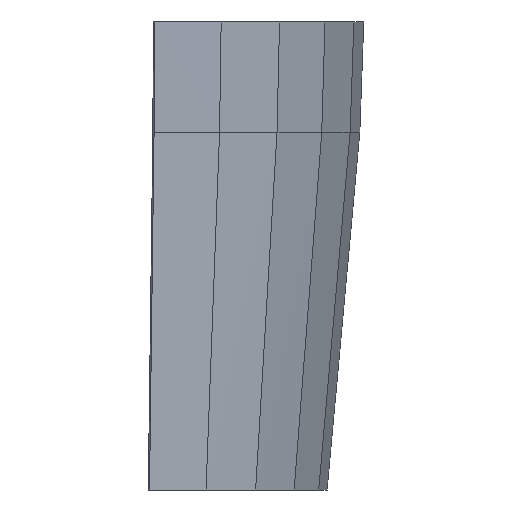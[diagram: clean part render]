
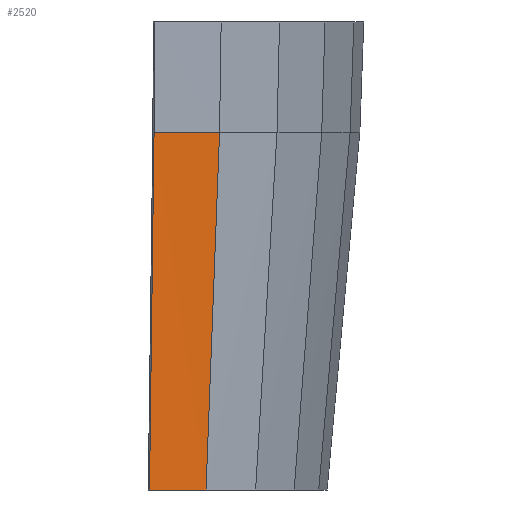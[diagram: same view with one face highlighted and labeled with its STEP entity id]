
A CAD part, left-side view. The second image highlights one B-rep face of the part: STEP entity #2520.
In plain terms, the highlighted free-form (B-spline) face has degree [1, 1] with [2, 2] control points.
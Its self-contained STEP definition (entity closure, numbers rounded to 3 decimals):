
#255 = PLANE('',#256);
#256 = AXIS2_PLACEMENT_3D('',#257,#258,#259);
#257 = CARTESIAN_POINT('',(70.91,-11.412,-366.));
#258 = DIRECTION('',(0.,0.,1.));
#259 = DIRECTION('',(-1.,0.,0.));
#648 = B_SPLINE_SURFACE_WITH_KNOTS('',1,1,(
    (#649,#650)
    ,(#651,#652
    )),.UNSPECIFIED.,.F.,.F.,.F.,(2,2),(2,2),(0.,29.572),(0.,1.
    ),.PIECEWISE_BEZIER_KNOTS.);
#649 = CARTESIAN_POINT('',(-167.496,-41.31,-82.));
#650 = CARTESIAN_POINT('',(-153.835,-39.245,-224.));
#651 = CARTESIAN_POINT('',(-178.638,-13.917,-82.));
#652 = CARTESIAN_POINT('',(-163.784,-13.221,-224.));
#1142 = VERTEX_POINT('',#1143);
#1143 = CARTESIAN_POINT('',(-141.997,-33.875,-366.));
#1157 = B_SPLINE_SURFACE_WITH_KNOTS('',1,1,(
    (#1158,#1159)
    ,(#1160,#1161
    )),.UNSPECIFIED.,.F.,.F.,.F.,(2,2),(2,2),(0.,29.837),(0.,1.
    ),.PIECEWISE_BEZIER_KNOTS.);
#1158 = CARTESIAN_POINT('',(-134.624,-62.075,-224.));
#1159 = CARTESIAN_POINT('',(-124.783,-53.58,-366.));
#1160 = CARTESIAN_POINT('',(-153.835,-39.245,-224.));
#1161 = CARTESIAN_POINT('',(-141.997,-33.875,-366.));
#1168 = EDGE_CURVE('',#1142,#1169,#1171,.T.);
#1169 = VERTEX_POINT('',#1170);
#1170 = CARTESIAN_POINT('',(-150.91,-11.412,-366.));
#1171 = SURFACE_CURVE('',#1172,(#1176,#1183),.PCURVE_S1.);
#1172 = LINE('',#1173,#1174);
#1173 = CARTESIAN_POINT('',(-141.997,-33.875,-366.));
#1174 = VECTOR('',#1175,1.);
#1175 = DIRECTION('',(-0.369,0.929,0.));
#1176 = PCURVE('',#255,#1177);
#1177 = DEFINITIONAL_REPRESENTATION('',(#1178),#1182);
#1178 = LINE('',#1179,#1180);
#1179 = CARTESIAN_POINT('',(212.907,22.462));
#1180 = VECTOR('',#1181,1.);
#1181 = DIRECTION('',(0.369,-0.929));
#1182 = ( GEOMETRIC_REPRESENTATION_CONTEXT(2) 
PARAMETRIC_REPRESENTATION_CONTEXT() REPRESENTATION_CONTEXT('2D SPACE',''
  ) );
#1183 = PCURVE('',#1184,#1189);
#1184 = B_SPLINE_SURFACE_WITH_KNOTS('',1,1,(
    (#1185,#1186)
    ,(#1187,#1188
    )),.UNSPECIFIED.,.F.,.F.,.F.,(2,2),(2,2),(0.,27.86),(0.,1.
    ),.PIECEWISE_BEZIER_KNOTS.);
#1185 = CARTESIAN_POINT('',(-153.835,-39.245,-224.));
#1186 = CARTESIAN_POINT('',(-141.997,-33.875,-366.));
#1187 = CARTESIAN_POINT('',(-163.784,-13.221,-224.));
#1188 = CARTESIAN_POINT('',(-150.91,-11.412,-366.));
#1189 = DEFINITIONAL_REPRESENTATION('',(#1190),#1193);
#1190 = B_SPLINE_CURVE_WITH_KNOTS('',1,(#1191,#1192),.UNSPECIFIED.,.F.,
  .F.,(2,2),(0.,24.166),.PIECEWISE_BEZIER_KNOTS.);
#1191 = CARTESIAN_POINT('',(0.,1.));
#1192 = CARTESIAN_POINT('',(27.86,1.));
#1193 = ( GEOMETRIC_REPRESENTATION_CONTEXT(2) 
PARAMETRIC_REPRESENTATION_CONTEXT() REPRESENTATION_CONTEXT('2D SPACE',''
  ) );
#1211 = B_SPLINE_SURFACE_WITH_KNOTS('',1,1,(
    (#1212,#1213)
    ,(#1214,#1215
    )),.UNSPECIFIED.,.F.,.F.,.F.,(2,2),(2,2),(0.,3.5),(0.,1.),
  .PIECEWISE_BEZIER_KNOTS.);
#1212 = CARTESIAN_POINT('',(-163.784,-13.221,-224.));
#1213 = CARTESIAN_POINT('',(-150.91,-11.412,-366.));
#1214 = CARTESIAN_POINT('',(-160.318,-12.734,-224.));
#1215 = CARTESIAN_POINT('',(-147.444,-10.925,-366.));
#1775 = VERTEX_POINT('',#1776);
#1776 = CARTESIAN_POINT('',(-153.835,-39.245,-224.));
#1822 = VERTEX_POINT('',#1823);
#1823 = CARTESIAN_POINT('',(-163.784,-13.221,-224.));
#1843 = EDGE_CURVE('',#1775,#1822,#1844,.T.);
#1844 = SURFACE_CURVE('',#1845,(#1849,#1855),.PCURVE_S1.);
#1845 = LINE('',#1846,#1847);
#1846 = CARTESIAN_POINT('',(-153.835,-39.245,-224.));
#1847 = VECTOR('',#1848,1.);
#1848 = DIRECTION('',(-0.357,0.934,0.));
#1849 = PCURVE('',#648,#1850);
#1850 = DEFINITIONAL_REPRESENTATION('',(#1851),#1854);
#1851 = B_SPLINE_CURVE_WITH_KNOTS('',1,(#1852,#1853),.UNSPECIFIED.,.F.,
  .F.,(2,2),(0.,27.86),.PIECEWISE_BEZIER_KNOTS.);
#1852 = CARTESIAN_POINT('',(0.,1.));
#1853 = CARTESIAN_POINT('',(29.572,1.));
#1854 = ( GEOMETRIC_REPRESENTATION_CONTEXT(2) 
PARAMETRIC_REPRESENTATION_CONTEXT() REPRESENTATION_CONTEXT('2D SPACE',''
  ) );
#1855 = PCURVE('',#1184,#1856);
#1856 = DEFINITIONAL_REPRESENTATION('',(#1857),#1861);
#1857 = LINE('',#1858,#1859);
#1858 = CARTESIAN_POINT('',(0.,0.));
#1859 = VECTOR('',#1860,1.);
#1860 = DIRECTION('',(1.,0.));
#1861 = ( GEOMETRIC_REPRESENTATION_CONTEXT(2) 
PARAMETRIC_REPRESENTATION_CONTEXT() REPRESENTATION_CONTEXT('2D SPACE',''
  ) );
#2499 = EDGE_CURVE('',#1775,#1142,#2500,.T.);
#2500 = SURFACE_CURVE('',#2501,(#2504,#2511),.PCURVE_S1.);
#2501 = B_SPLINE_CURVE_WITH_KNOTS('',1,(#2502,#2503),.UNSPECIFIED.,.F.,
  .F.,(2,2),(0.,1.),.PIECEWISE_BEZIER_KNOTS.);
#2502 = CARTESIAN_POINT('',(-153.835,-39.245,-224.));
#2503 = CARTESIAN_POINT('',(-141.997,-33.875,-366.));
#2504 = PCURVE('',#1157,#2505);
#2505 = DEFINITIONAL_REPRESENTATION('',(#2506),#2510);
#2506 = LINE('',#2507,#2508);
#2507 = CARTESIAN_POINT('',(29.837,0.));
#2508 = VECTOR('',#2509,1.);
#2509 = DIRECTION('',(0.,1.));
#2510 = ( GEOMETRIC_REPRESENTATION_CONTEXT(2) 
PARAMETRIC_REPRESENTATION_CONTEXT() REPRESENTATION_CONTEXT('2D SPACE',''
  ) );
#2511 = PCURVE('',#1184,#2512);
#2512 = DEFINITIONAL_REPRESENTATION('',(#2513),#2517);
#2513 = LINE('',#2514,#2515);
#2514 = CARTESIAN_POINT('',(0.,0.));
#2515 = VECTOR('',#2516,1.);
#2516 = DIRECTION('',(0.,1.));
#2517 = ( GEOMETRIC_REPRESENTATION_CONTEXT(2) 
PARAMETRIC_REPRESENTATION_CONTEXT() REPRESENTATION_CONTEXT('2D SPACE',''
  ) );
#2520 = ADVANCED_FACE('',(#2521),#1184,.T.);
#2521 = FACE_BOUND('',#2522,.T.);
#2522 = EDGE_LOOP('',(#2523,#2524,#2544,#2545));
#2523 = ORIENTED_EDGE('',*,*,#1843,.T.);
#2524 = ORIENTED_EDGE('',*,*,#2525,.T.);
#2525 = EDGE_CURVE('',#1822,#1169,#2526,.T.);
#2526 = SURFACE_CURVE('',#2527,(#2530,#2537),.PCURVE_S1.);
#2527 = B_SPLINE_CURVE_WITH_KNOTS('',1,(#2528,#2529),.UNSPECIFIED.,.F.,
  .F.,(2,2),(0.,1.),.PIECEWISE_BEZIER_KNOTS.);
#2528 = CARTESIAN_POINT('',(-163.784,-13.221,-224.));
#2529 = CARTESIAN_POINT('',(-150.91,-11.412,-366.));
#2530 = PCURVE('',#1184,#2531);
#2531 = DEFINITIONAL_REPRESENTATION('',(#2532),#2536);
#2532 = LINE('',#2533,#2534);
#2533 = CARTESIAN_POINT('',(27.86,0.));
#2534 = VECTOR('',#2535,1.);
#2535 = DIRECTION('',(0.,1.));
#2536 = ( GEOMETRIC_REPRESENTATION_CONTEXT(2) 
PARAMETRIC_REPRESENTATION_CONTEXT() REPRESENTATION_CONTEXT('2D SPACE',''
  ) );
#2537 = PCURVE('',#1211,#2538);
#2538 = DEFINITIONAL_REPRESENTATION('',(#2539),#2543);
#2539 = LINE('',#2540,#2541);
#2540 = CARTESIAN_POINT('',(0.,0.));
#2541 = VECTOR('',#2542,1.);
#2542 = DIRECTION('',(0.,1.));
#2543 = ( GEOMETRIC_REPRESENTATION_CONTEXT(2) 
PARAMETRIC_REPRESENTATION_CONTEXT() REPRESENTATION_CONTEXT('2D SPACE',''
  ) );
#2544 = ORIENTED_EDGE('',*,*,#1168,.F.);
#2545 = ORIENTED_EDGE('',*,*,#2499,.F.);
